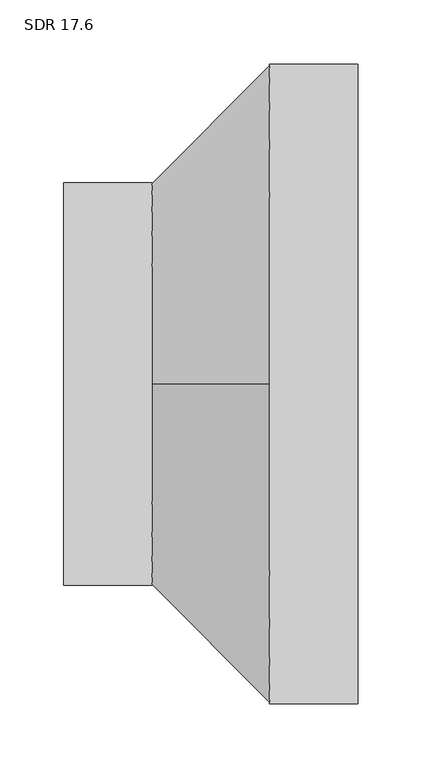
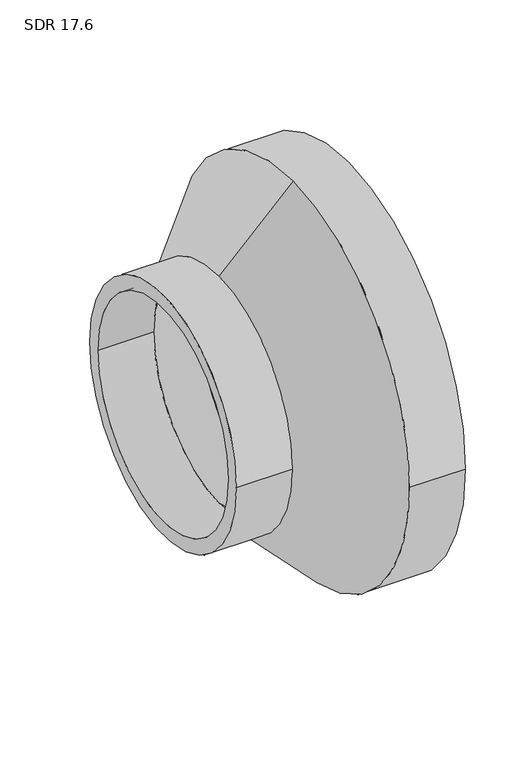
"""IFC4 building model written with IfcOpenShell, lengths in millimetres: pipe fitting geometry, Aquatherm - Reducing Coupling Combined - METRIC : SDR 17.6."""

import ifcopenshell
import ifcopenshell.guid

model = None  # the IFC model being written
_history = None  # IfcOwnerHistory: only IFC2X3 demands one
_inside = {}  # id of a spatial element -> (the spatial element, [elements in it])
_under = {}  # id of a project, library or spatial element -> (it, [spatial elements below it])
_declared = {}  # id of a project -> (the project, [libraries it declares])
_typed = {}  # id of a type object -> (the type object, [elements of that type])
_made_of = {}  # id of a material, layer set ... -> (it, [elements and type objects made of it])


def new_model(schema):
    """Start an empty IFC model of exactly this schema.

    Asked for "IFC4X3", IfcOpenShell would pick the latest addendum, in which some entities
    have other attributes; the version numbers below select the first issue.
    IFC2X3 requires an IfcOwnerHistory on every rooted entity: one is made here for all.
    """
    global model, _history
    if schema == "IFC4X3":
        model = ifcopenshell.file(schema_version=(4, 3, 0, 0))
    else:
        model = ifcopenshell.file(schema=schema)
    _inside.clear()
    _under.clear()
    _declared.clear()
    _typed.clear()
    _made_of.clear()
    _history = None
    if model.schema == "IFC2X3":
        org = make("IfcOrganization", Name="unknown")
        user = make(
            "IfcPersonAndOrganization",
            ThePerson=make("IfcPerson", FamilyName="unknown"),
            TheOrganization=org,
        )
        app = make(
            "IfcApplication",
            ApplicationDeveloper=org,
            Version="unknown",
            ApplicationFullName="unknown",
            ApplicationIdentifier="unknown",
        )
        _history = make(
            "IfcOwnerHistory",
            OwningUser=user,
            OwningApplication=app,
            ChangeAction="ADDED",
            CreationDate=0,
        )
    return model


def make(cls, **values):
    """One entity of the class cls with the attributes given. An attribute that is None is left unset."""
    return model.create_entity(
        cls, **{name: value for name, value in values.items() if value is not None}
    )


def rooted(cls, **values):
    """An entity with a GlobalId (a new one), such as an element, a storey or a relation."""
    return make(cls, GlobalId=ifcopenshell.guid.new(), OwnerHistory=_history, **values)


def si_unit(unit_type, name, prefix=None):
    """IfcSIUnit, for example si_unit("LENGTHUNIT", "METRE", prefix="MILLI")."""
    return make("IfcSIUnit", UnitType=unit_type, Prefix=prefix, Name=name)


def assignment(units):
    """IfcUnitAssignment: the units of a project."""
    return None if units is None else make("IfcUnitAssignment", Units=units)


def point(xyz):
    """IfcCartesianPoint."""
    return None if xyz is None else make("IfcCartesianPoint", Coordinates=xyz)


def direction(xyz):
    """IfcDirection."""
    return None if xyz is None else make("IfcDirection", DirectionRatios=xyz)


def frame(location, z_axis=None, x_axis=None):
    """IfcAxis2Placement3D, a coordinate frame: its origin and axes. An axis left out is left unset."""
    return make(
        "IfcAxis2Placement3D",
        Location=point(location),
        Axis=direction(z_axis),
        RefDirection=direction(x_axis),
    )


def origin():
    """The frame at (0, 0, 0) with its axes left unset."""
    return frame((0.0, 0.0, 0.0))


def place(relative_to, where):
    """IfcLocalPlacement: puts the frame where relative to a parent placement (None: the world)."""
    return make(
        "IfcLocalPlacement", PlacementRelTo=relative_to, RelativePlacement=where
    )


def context(
    kind, dimensions, precision=None, world=None, true_north=None, identifier=None
):
    """IfcGeometricRepresentationContext, for example the 3D "Model" context."""
    return make(
        "IfcGeometricRepresentationContext",
        ContextIdentifier=identifier,
        ContextType=kind,
        CoordinateSpaceDimension=dimensions,
        Precision=precision,
        WorldCoordinateSystem=world,
        TrueNorth=true_north,
    )


def project(units=None, contexts=None):
    """IfcProject with its units and contexts."""
    return rooted(
        "IfcProject",
        Name="project",
        RepresentationContexts=contexts,
        UnitsInContext=assignment(units),
    )


def spatial(cls, under=None, at=None, **own):
    """A site, building, storey or space (cls), placed at a placement, below another one or the project."""
    s = rooted(cls, ObjectPlacement=at, **own)
    if under is not None:
        _under.setdefault(under.id(), (under, []))[1].append(s)
    return s


def polyline(points):
    """IfcPolyline through the points."""
    return make("IfcPolyline", Points=[point(p) for p in points])


def circle_curve(where, radius):
    """IfcCircle in the frame where."""
    return make("IfcCircle", Position=where, Radius=radius)


def shape(context_of_items, identifier, shape_type, items):
    """IfcShapeRepresentation: the items that make up one representation, for example the "Body"."""
    return make(
        "IfcShapeRepresentation",
        ContextOfItems=context_of_items,
        RepresentationIdentifier=identifier,
        RepresentationType=shape_type,
        Items=items,
    )


def source(mapping_origin, context_of_items, identifier, shape_type, items):
    """IfcRepresentationMap: a shape defined once, which mapped items show again and again."""
    return make(
        "IfcRepresentationMap",
        MappingOrigin=mapping_origin,
        MappedRepresentation=shape(context_of_items, identifier, shape_type, items),
    )


def transform(
    local_origin,
    x_axis=None,
    y_axis=None,
    z_axis=None,
    scale=None,
    scale2=None,
    scale3=None,
    uniform=True,
):
    """IfcCartesianTransformationOperator3D, or its non-uniform kind. x_axis, y_axis, z_axis: its Axis1, 2, 3."""
    if uniform:
        return make(
            "IfcCartesianTransformationOperator3D",
            Axis1=direction(x_axis),
            Axis2=direction(y_axis),
            LocalOrigin=point(local_origin),
            Scale=scale,
            Axis3=direction(z_axis),
        )
    return make(
        "IfcCartesianTransformationOperator3DnonUniform",
        Axis1=direction(x_axis),
        Axis2=direction(y_axis),
        LocalOrigin=point(local_origin),
        Scale=scale,
        Axis3=direction(z_axis),
        Scale2=scale2,
        Scale3=scale3,
    )


def mapped(mapping_source, mapping_target):
    """IfcMappedItem: shows the shape of a source again, moved by a transform."""
    return make(
        "IfcMappedItem", MappingSource=mapping_source, MappingTarget=mapping_target
    )


def made_of(thing, what):
    """Note that an element or type object is made of a material, layer set ...; save() writes the relation."""
    if what is not None:
        _made_of.setdefault(what.id(), (what, []))[1].append(thing)
    return thing


def element(
    cls,
    number,
    at=None,
    inside=None,
    cuts=None,
    type_object=None,
    material=None,
    context=None,
    identifier="Body",
    shape_type=None,
    held_by="IfcProductDefinitionShape",
    body=None,
    shapes=None,
    **own,
):
    """One element of the class cls, such as IfcWall. Its Tag is "e" and its number.

    at: its placement. inside: the storey or other place that contains it. cuts: it is an
    opening in that element (IfcRelVoidsElement). A single representation is given by context,
    identifier, shape_type and body (its items); several are given by shapes. held_by: the class
    of the entity that holds the representations. save() writes the other relations.
    """
    e = rooted(cls, Tag="e%d" % number, ObjectPlacement=at, **own)
    if body is not None:
        shapes = [shape(context, identifier, shape_type, body)]
    if shapes is not None:
        e.Representation = make(held_by, Representations=shapes)
    if inside is not None:
        _inside.setdefault(inside.id(), (inside, []))[1].append(e)
    if cuts is not None:
        rooted(
            "IfcRelVoidsElement", RelatingBuildingElement=cuts, RelatedOpeningElement=e
        )
    if type_object is not None:
        _typed.setdefault(type_object.id(), (type_object, []))[1].append(e)
    return made_of(e, material)


def aggregate(whole, parts):
    """IfcRelAggregates: a whole, such as a stair, and the parts it consists of."""
    return rooted("IfcRelAggregates", RelatingObject=whole, RelatedObjects=parts)


def save(model, path):
    """Write the relations noted so far, then the file.

    IfcRelAggregates (storeys below a building ...), IfcRelContainedInSpatialStructure (elements
    in a storey), IfcRelDefinesByType, IfcRelAssociatesMaterial and IfcRelDeclares: one each for
    every whole, place, type object, material and project.
    """
    for whole, parts in _under.values():
        aggregate(whole, parts)
    for where, things in _inside.values():
        rooted(
            "IfcRelContainedInSpatialStructure",
            RelatedElements=things,
            RelatingStructure=where,
        )
    for kind, things in _typed.values():
        rooted("IfcRelDefinesByType", RelatedObjects=things, RelatingType=kind)
    for what, things in _made_of.values():
        rooted("IfcRelAssociatesMaterial", RelatedObjects=things, RelatingMaterial=what)
    for by, libraries in _declared.values():
        rooted("IfcRelDeclares", RelatingContext=by, RelatedDefinitions=libraries)
    model.write(path)


def plane_surface(at):
    """IfcPlane: the flat surface through the origin of the frame at, square to its z axis."""
    return make("IfcPlane", Position=at)


def cylinder_surface(at, radius):
    """IfcCylindricalSurface: all points at the distance radius from the z axis of the frame at."""
    return make("IfcCylindricalSurface", Position=at, Radius=radius)


def revolved_surface(curve, axis_point, axis_direction):
    """IfcSurfaceOfRevolution: the curve turned about the line through axis_point along axis_direction."""
    return make(
        "IfcSurfaceOfRevolution",
        SweptCurve=make("IfcArbitraryOpenProfileDef", ProfileType="CURVE", Curve=curve),
        AxisPosition=make("IfcAxis1Placement", Location=point(axis_point), Axis=direction(axis_direction)),
    )


def advanced_brep(points, edges, surfaces, faces):
    """IfcAdvancedBrep: a solid bounded by faces that lie on surfaces and meet in shared edges.

    An edge is (start, end): straight between two places in points (the first is 0);
    or (start, end, curve); or (start, end, curve, False) where it runs against its curve.
    A face is (place in surfaces, loops), or (place, loops, False) where it looks against
    its surface's normal. A loop lists edges by number (the first is 1), with a minus sign
    where the edge is run from its end to its start. The first loop is the outer one.
    """
    corners = [point(p) for p in points]
    vertices = [make("IfcVertexPoint", VertexGeometry=c) for c in corners]
    made = []
    for start, end, *more in edges:
        made.append(
            make(
                "IfcEdgeCurve",
                EdgeStart=vertices[start],
                EdgeEnd=vertices[end],
                EdgeGeometry=more[0] if more else make("IfcPolyline", Points=[corners[start], corners[end]]),
                SameSense=more[1] if len(more) > 1 else True,
            )
        )
    hull = []
    for where, loops, *sense in faces:
        bounds = []
        for j, loop in enumerate(loops):
            ring = [make("IfcOrientedEdge", EdgeElement=made[abs(k) - 1], Orientation=k > 0) for k in loop]
            bounds.append(
                make(
                    "IfcFaceOuterBound" if j == 0 else "IfcFaceBound",
                    Bound=make("IfcEdgeLoop", EdgeList=ring),
                    Orientation=True,
                )
            )
        hull.append(make("IfcAdvancedFace", Bounds=bounds, FaceSurface=surfaces[where], SameSense=sense[0] if sense else True))
    return make("IfcAdvancedBrep", Outer=make("IfcClosedShell", CfsFaces=hull))


def sdr_17_6_18816866(model_context):
    return source(origin(), model_context, "Body", "AdvancedBrep", [
        advanced_brep(
        [(-115.062, -157.48, 0.0), (-115.062, 157.48, 0.0), (-115.062, -139.5845455, 0.0), (-115.062, 139.5845455, 0.0), (-46.0248, 139.5845455, 0.0), (-46.0248, 0.0, 139.5845455), (-46.0248, -139.5845455, 0.0), (-46.0248, 0.0, -139.5845455), (-46.0248, 157.48, 0.0), (-46.0248, 0.0, -157.48), (-46.0248, -157.48, 0.0), (-46.0248, 0.0, 157.48), (115.062, -250.19, 0.0), (115.062, 250.19, 0.0), (115.062, -221.7593182, 0.0), (115.062, 221.7593182, 0.0), (46.0248, -250.19, 0.0), (46.0248, 0.0, -250.19), (46.0248, 250.19, 0.0), (46.0248, 0.0, 250.19), (46.0248, -221.7593182, 0.0), (46.0248, 0.0, 221.7593182), (46.0248, 221.7593182, 0.0), (46.0248, 0.0, -221.7593182)],
        [
            (0, 1, circle_curve(frame((-115.062, 0.0, 0.0), z_axis=(-1.0, 0.0, 0.0), x_axis=(0.0, 1.0, 0.0)), 157.48)),
            (1, 0, circle_curve(frame((-115.062, 0.0, 0.0), z_axis=(-1.0, 0.0, 0.0), x_axis=(0.0, 1.0, 0.0)), 157.48)),
            (2, 3, circle_curve(frame((-115.062, 0.0, 0.0), z_axis=(1.0, 0.0, 0.0), x_axis=(0.0, 1.0, 0.0)), 139.5845455)),
            (3, 2, circle_curve(frame((-115.062, 0.0, 0.0), z_axis=(1.0, 0.0, 0.0), x_axis=(0.0, 1.0, 0.0)), 139.5845455)),
            (3, 4),
            (4, 5, circle_curve(frame((-46.0248, 0.0, 0.0), z_axis=(1.0, 0.0, 0.0), x_axis=(0.0, 1.0, 0.0)), 139.5845455)),
            (5, 6, circle_curve(frame((-46.0248, 0.0, 0.0), z_axis=(1.0, 0.0, 0.0), x_axis=(0.0, 1.0, 0.0)), 139.5845455)),
            (6, 2),
            (6, 7, circle_curve(frame((-46.0248, 0.0, 0.0), z_axis=(1.0, 0.0, 0.0), x_axis=(0.0, 1.0, 0.0)), 139.5845455)),
            (7, 4, circle_curve(frame((-46.0248, 0.0, 0.0), z_axis=(1.0, 0.0, 0.0), x_axis=(0.0, 1.0, 0.0)), 139.5845455)),
            (1, 8),
            (8, 9, circle_curve(frame((-46.0248, 0.0, 0.0), z_axis=(-1.0, 0.0, 0.0), x_axis=(0.0, 1.0, 0.0)), 157.48)),
            (9, 10, circle_curve(frame((-46.0248, 0.0, 0.0), z_axis=(-1.0, 0.0, 0.0), x_axis=(0.0, 1.0, 0.0)), 157.48)),
            (10, 0),
            (10, 11, circle_curve(frame((-46.0248, 0.0, 0.0), z_axis=(-1.0, 0.0, 0.0), x_axis=(0.0, 1.0, 0.0)), 157.48)),
            (11, 8, circle_curve(frame((-46.0248, 0.0, 0.0), z_axis=(-1.0, 0.0, 0.0), x_axis=(0.0, 1.0, 0.0)), 157.48)),
            (12, 13, circle_curve(frame((115.062, 0.0, 0.0), z_axis=(1.0, 0.0, 0.0), x_axis=(0.0, 1.0, 0.0)), 250.19)),
            (13, 12, circle_curve(frame((115.062, 0.0, 0.0), z_axis=(1.0, 0.0, 0.0), x_axis=(0.0, 1.0, 0.0)), 250.19)),
            (14, 15, circle_curve(frame((115.062, 0.0, 0.0), z_axis=(-1.0, 0.0, 0.0), x_axis=(0.0, 1.0, 0.0)), 221.7593182)),
            (15, 14, circle_curve(frame((115.062, 0.0, 0.0), z_axis=(-1.0, 0.0, 0.0), x_axis=(0.0, 1.0, 0.0)), 221.7593182)),
            (12, 16),
            (16, 17, circle_curve(frame((46.0248, 0.0, 0.0), z_axis=(1.0, 0.0, 0.0), x_axis=(0.0, 1.0, 0.0)), 250.19)),
            (17, 18, circle_curve(frame((46.0248, 0.0, 0.0), z_axis=(1.0, 0.0, 0.0), x_axis=(0.0, 1.0, 0.0)), 250.19)),
            (18, 13),
            (18, 19, circle_curve(frame((46.0248, 0.0, 0.0), z_axis=(1.0, 0.0, 0.0), x_axis=(0.0, 1.0, 0.0)), 250.19)),
            (19, 16, circle_curve(frame((46.0248, 0.0, 0.0), z_axis=(1.0, 0.0, 0.0), x_axis=(0.0, 1.0, 0.0)), 250.19)),
            (14, 20),
            (20, 21, circle_curve(frame((46.0248, 0.0, 0.0), z_axis=(-1.0, 0.0, 0.0), x_axis=(0.0, 1.0, 0.0)), 221.7593182)),
            (21, 22, circle_curve(frame((46.0248, 0.0, 0.0), z_axis=(-1.0, 0.0, 0.0), x_axis=(0.0, 1.0, 0.0)), 221.7593182)),
            (22, 15),
            (22, 23, circle_curve(frame((46.0248, 0.0, 0.0), z_axis=(-1.0, 0.0, 0.0), x_axis=(0.0, 1.0, 0.0)), 221.7593182)),
            (23, 20, circle_curve(frame((46.0248, 0.0, 0.0), z_axis=(-1.0, 0.0, 0.0), x_axis=(0.0, 1.0, 0.0)), 221.7593182)),
            (11, 19),
            (17, 9),
            (21, 5),
            (7, 23),
        ],
        [
            plane_surface(frame((-115.062, 139.5845455, 0.0), z_axis=(-1.0, 0.0, 0.0), x_axis=(0.0, 0.0, 1.0))),
            revolved_surface(polyline([(-115.062, 139.5845455, 0.0), (-46.0248, 139.5845455, 0.0)]), (-115.062, 0.0, 0.0), (-1.0, 0.0, 0.0)),
            cylinder_surface(frame((0.0, 0.0, 0.0), z_axis=(1.0, 0.0, 0.0), x_axis=(0.0, 1.0, 0.0)), 157.48),
            plane_surface(frame((115.062, 250.19, 0.0), z_axis=(1.0, 0.0, 0.0), x_axis=(0.0, 0.0, 1.0))),
            cylinder_surface(frame((46.0248, 0.0, 0.0), z_axis=(1.0, 0.0, 0.0), x_axis=(0.0, 1.0, 0.0)), 250.19),
            revolved_surface(polyline([(46.0248, 221.7593182, 0.0), (115.062, 221.7593182, 0.0)]), (0.0, 0.0, 0.0), (-1.0, 0.0, 0.0)),
            revolved_surface(polyline([(46.0248, 0.0, 250.19), (-46.0248, 0.0, 157.48)]), (-690.3215384, 0.0, 0.0), (-1.0, 0.0, 0.0)),
            revolved_surface(polyline([(-46.0248, 0.0, 139.5845455), (46.0248, 0.0, 221.7593182)]), (-690.3215384, 0.0, 0.0), (-1.0, 0.0, 0.0)),
        ],
        [
            (0, [[1, 2], [3, 4]]),
            (1, [[-4, 5, 6, 7, 8]]),
            (1, [[-3, -8, 9, 10, -5]]),
            (2, [[-2, 11, 12, 13, 14]]),
            (2, [[-1, -14, 15, 16, -11]]),
            (3, [[17, 18], [19, 20]]),
            (4, [[-17, 21, 22, 23, 24]]),
            (4, [[-18, -24, 25, 26, -21]]),
            (5, [[-19, 27, 28, 29, 30]]),
            (5, [[-20, -30, 31, 32, -27]]),
            (6, [[33, -25, -23, 34, -12, -16]]),
            (6, [[-33, -15, -13, -34, -22, -26]]),
            (7, [[35, -6, -10, 36, -31, -29]]),
            (7, [[-35, -28, -32, -36, -9, -7]]),
        ],
    ),
    ])


if __name__ == "__main__":
    model = new_model("IFC4")
    model_context = context("Model", 3, world=origin())
    ifc_project = project(units=[si_unit("LENGTHUNIT", "METRE", prefix="MILLI")], contexts=[model_context])
    site = spatial("IfcSite", under=ifc_project)
    building = spatial("IfcBuilding", under=site)
    placement = place(None, origin())
    sdr_17_6_shape = sdr_17_6_18816866(model_context)
    element("IfcPipeFitting", 1, ObjectType="Aquatherm - Reducing Coupling Combined - METRIC : SDR 17.6", at=placement, inside=building, context=model_context, shape_type="MappedRepresentation", body=[
        mapped(sdr_17_6_shape, transform((0.0, 0.0, 0.0), x_axis=(1.0, 0.0, 0.0), y_axis=(0.0, 1.0, 0.0), z_axis=(0.0, 0.0, 1.0))),
    ])
    save(model, "model.ifc")
